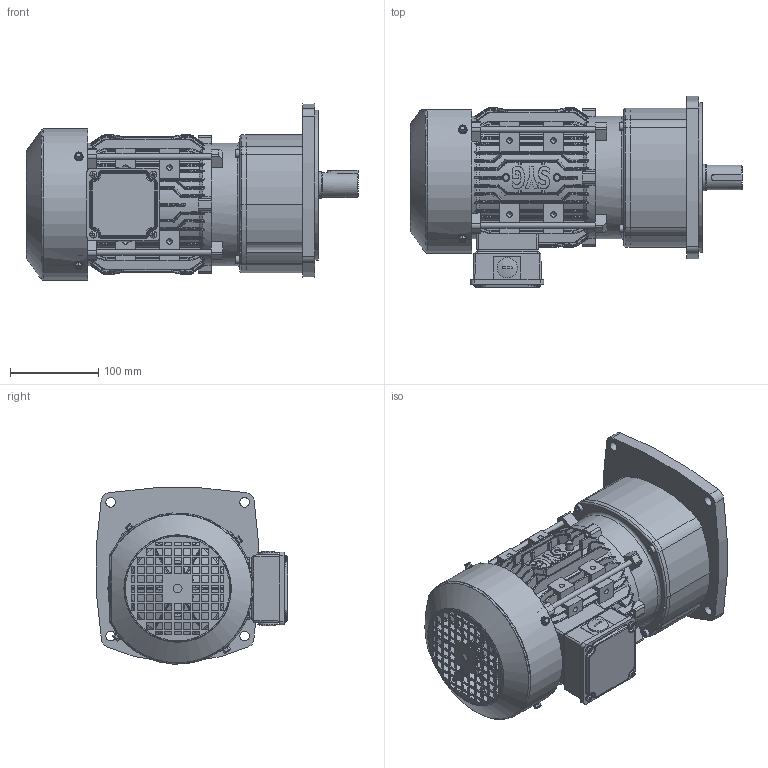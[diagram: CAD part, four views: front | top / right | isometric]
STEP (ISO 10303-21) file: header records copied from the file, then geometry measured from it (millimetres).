
FILE_DESCRIPTION(/* description */ (''),/* implementation_level */ '2;1');
FILE_NAME(/* name */ 'D:\▼ 3D：M2\00. 내부 직접 검토품\M2-105\외형도용 - ASS''Y\SK2\M210502B - OUTLINE (SK2，VT，0.75kW).stp',/* time_stamp */ '2026-05-12T15:43:37+09:00',/* author */ ('이정훈'),/* organization */ (''),/* preprocessor_version */ 'ST-DEVELOPER v18.1',/* originating_system */ 'Autodesk Inventor 2022',/* authorisation */ '');
FILE_SCHEMA (('AUTOMOTIVE_DESIGN { 1 0 10303 214 3 1 1 }'));
Length unit declared in the file: millimetre
Products named in the file (1): M210502B - OUTLINE (SK2，VT，0.75
kW)
Bounding box: 377 x 217.34 x 200.12 mm (x, y, z)
Volume: 5531535.7 mm3; surface area: 469985.3 mm2
Topology: 1 solids, 1 shells, 3740 faces, 10033 edges, 6313 vertices
Faces by surface type: plane 1625, cylinder 1093, bspline 688, cone 217, torus 99, sphere 18
Full cylindrical faces by diameter (mm): 4.8 x4, 5 x8, 5.833 x4, 6 x8, 8 x4, 8.5 x4, 10 x1, 11 x4, 20 x1, 23 x2, 28 x1, 30 x1, 42 x1, 58 x1, 139 x1, 162 x1, 170 x1
Entity records: 157310 total; most frequent: CARTESIAN_POINT 67266, ORIENTED_EDGE 19976, DIRECTION 17581, EDGE_CURVE 9988, VERTEX_POINT 6313, AXIS2_PLACEMENT_3D 6304, LINE 4973, VECTOR 4973
